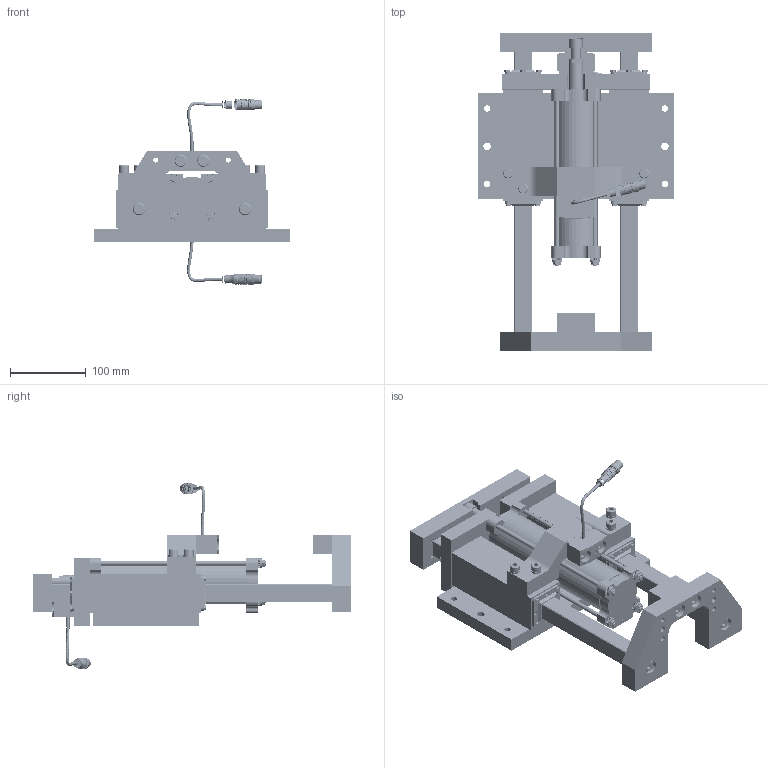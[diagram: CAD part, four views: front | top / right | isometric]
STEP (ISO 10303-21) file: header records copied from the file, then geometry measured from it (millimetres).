
FILE_DESCRIPTION(/* description */ (''),/* implementation_level */ '2;1');
FILE_NAME(/* name */ 'C:\Vault Workspace\CAD\Welker\Shot Pin\DBL24\STANDARD\DB2125B01XP1XXX0000-RET.stp',/* time_stamp */ '2018-03-26T08:01:18-04:00',/* author */ ('KLabrecque'),/* organization */ (''),/* preprocessor_version */ 'ST-DEVELOPER v17',/* originating_system */ 'Autodesk Inventor 2018',/* authorisation */ '');
FILE_SCHEMA (('AUTOMOTIVE_DESIGN { 1 0 10303 214 3 1 1 }'));
Products named in the file (1): DB2L01_Shrinkwrap_1
Bounding box: 260 x 421 x 246.1 mm (x, y, z)
Volume: 3191100.7 mm3; surface area: 765842.1 mm2
Topology: 119 solids, 119 shells, 5467 faces, 14498 edges, 9621 vertices
Faces by surface type: plane 3158, cylinder 1201, bspline 566, cone 519, torus 23
Full cylindrical faces by diameter (mm): 2.5 x1, 3.175 x6, 3.734 x16, 4.064 x2, 4.166 x16, 4.2 x2, 4.763 x32, 4.917 x12, 5.359 x8, 6 x12, 6.35 x2, 6.5 x30, 6.563 x16, 6.63 x2, 6.647 x8, 7.95 x4, 8 x34, 8.13 x2, 8.334 x12, 8.376 x14, 8.5 x16, 8.7 x16, 9.728 x3, 10 x20, 10.211 x2, 10.287 x2, 10.35 x18, 10.494 x2, 10.5 x10, 10.7 x4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
Entity records: 198063 total; most frequent: CARTESIAN_POINT 62024, ORIENTED_EDGE 28880, DIRECTION 24334, EDGE_CURVE 14440, VERTEX_POINT 9621, AXIS2_PLACEMENT_3D 8742, LINE 6850, VECTOR 6850
